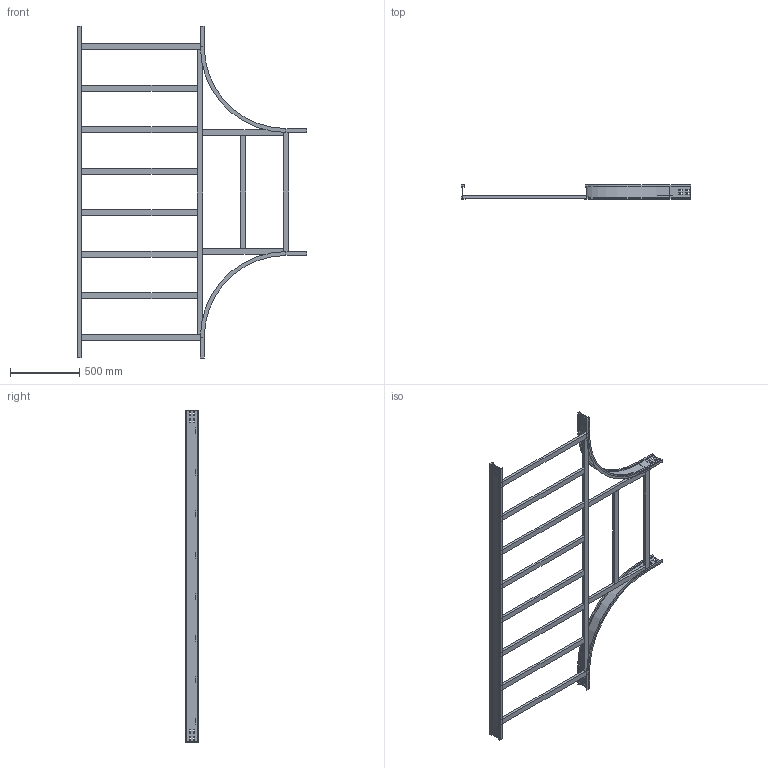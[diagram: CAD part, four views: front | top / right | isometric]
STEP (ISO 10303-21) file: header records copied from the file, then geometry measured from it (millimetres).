
FILE_DESCRIPTION (( 'STEP AP214' ), '1' );
FILE_NAME ('15S6D900.step', '2025-02-21T16:13:21', ( '' ), ( '' ), 'SwSTEP 2.0', 'SolidWorks 2023', '' );
FILE_SCHEMA (( 'AUTOMOTIVE_DESIGN' ));
Length unit declared in the file: millimetre
Products named in the file (8): TRAVERSINO_LONG._R600+900; TRAVERSINO_VERT_R600; LONGH.RETT_H100_R600+900; LONGH.INTERNO 90°_H100_R600; TRAVERSINO_900; TRAVERSINO_COPPIA_900; 15S6D900; TRAVERSINO_INTERMEDIO_R600+900
Assembly tree (16 placements, depth 2):
  15S6D900
    LONGH.INTERNO 90°_H100_R600  x2
    LONGH.RETT_H100_R600+900
    TRAVERSINO_900  x3
    TRAVERSINO_LONG._R600+900
    TRAVERSINO_INTERMEDIO_R600+900  x6
    TRAVERSINO_VERT_R600  x2
    TRAVERSINO_COPPIA_900
Bounding box: 1659 x 100 x 2400 mm (x, y, z)
Volume: 12196516 mm3; surface area: 2904207 mm2
Topology: 16 solids, 16 shells, 264 faces, 648 edges, 416 vertices
Faces by surface type: plane 252, cylinder 12
Entity records: 4685 total; most frequent: CARTESIAN_POINT 777, ORIENTED_EDGE 744, DIRECTION 714, EDGE_CURVE 372, VECTOR 360, LINE 360, VERTEX_POINT 240, EDGE_LOOP 178
